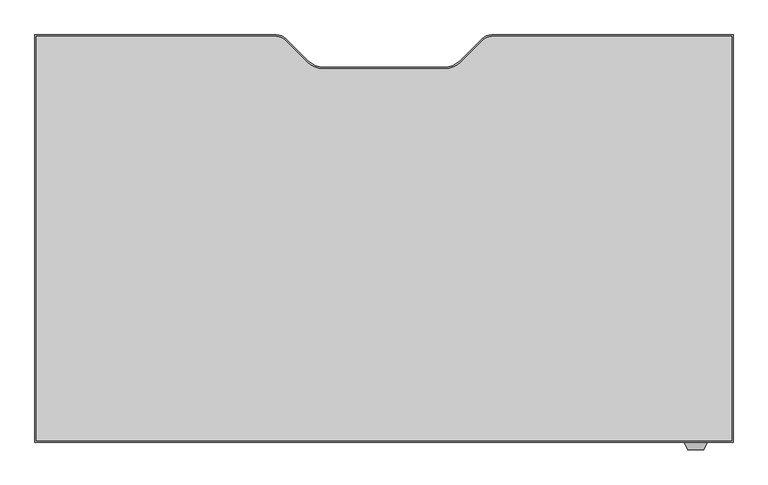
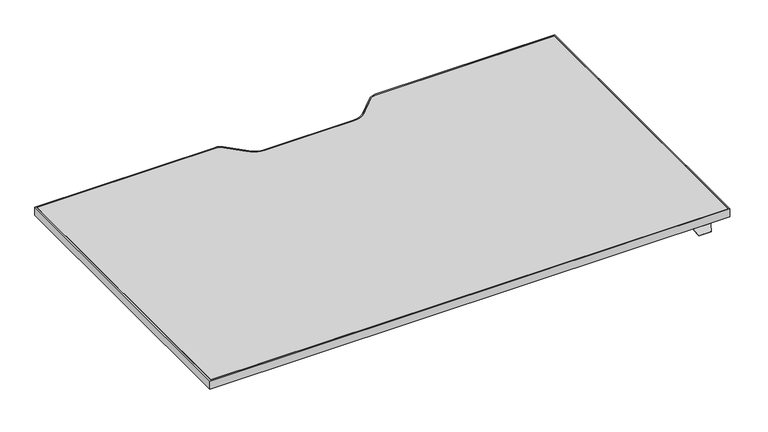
"""IFC4 building model written with IfcOpenShell, lengths in millimetres: furniture geometry, Steelcase Turnstone - Bivi - Height Adjustable Desk - T Base : 35D x 60W."""

from ifc_helpers import new_model, si_unit, point, frame, frame_2d, origin, place, context, project, spatial, polyline, circle_curve, trimmed, segment, composite_curve, outline, extrude, faceted_brep, source, transform, mapped, element, save


def furniture_2c54a8fb(model_context):
    return source(origin(), model_context, "Body", "SolidModel", [
        faceted_brep([(316.0177913, -542.0301693, 760.9984131), (316.0177913, -539.5074599, 760.9984131), (316.0177913, -539.5074599, 762.4), (316.0177913, -542.0490853, 762.4), (316.0177913, -543.3594921, 761.3004382), (316.0177913, -543.3594921, 759.8829789), (266.4448135, -542.0490853, 762.4), (266.4448135, -539.5074599, 762.4), (266.4448135, -539.5074599, 760.9984131), (266.4448135, -542.0301693, 760.9984131), (266.4448135, -543.3594921, 759.8829789), (266.4448135, -543.3594921, 761.3004382), (309.0358363, -558.3323429, 748.7367246), (273.4267685, -558.3323429, 748.7367246), (273.0673686, -557.5616074, 747.9659891), (309.3952362, -557.5616074, 747.9659891)], [[[0, 1, 2, 3, 4, 5]], [[6, 7, 8, 9, 10, 11]], [[12, 13, 14, 15]], [[9, 0, 5, 15, 14, 10]], [[1, 0, 9, 8]], [[2, 1, 8, 7]], [[3, 2, 7, 6]], [[3, 6, 11, 13, 12, 4]], [[5, 4, 12, 15]], [[11, 10, 14, 13]]]),
        extrude(outline(composite_curve([segment(polyline([(-1151.2285908, 346.9509147), (-623.9070191, 346.9509147)]), True, "CONTINUOUS"), segment(trimmed(circle_curve(frame_2d((-623.9070191, 318.2489147)), 28.702), [point((-623.9070191, 346.9509147))], [point((-603.6116402, 338.5442935))], False, "CARTESIAN"), True, "CONTINUOUS"), segment(polyline([(-603.6116402, 338.5442935), (-556.0972358, 291.0298891)]), True, "CONTINUOUS"), segment(trimmed(circle_curve(frame_2d((-520.1762113, 326.9509136)), 50.8), [point((-556.0972358, 291.0298891))], [point((-520.1762113, 276.1509136))], True, "CARTESIAN"), True, "CONTINUOUS"), segment(polyline([(-520.1762113, 276.1509136), (-258.2809703, 276.1509136)]), True, "CONTINUOUS"), segment(trimmed(circle_curve(frame_2d((-258.2809703, 326.9509136)), 50.8), [point((-258.2809703, 276.1509136))], [point((-222.3599458, 291.0298891))], True, "CARTESIAN"), True, "CONTINUOUS"), segment(polyline([(-222.3599458, 291.0298891), (-174.8455414, 338.5442935)]), True, "CONTINUOUS"), segment(trimmed(circle_curve(frame_2d((-154.5501625, 318.2489147)), 28.702), [point((-174.8455414, 338.5442935))], [point((-154.5501625, 346.9509147))], False, "CARTESIAN"), True, "CONTINUOUS"), segment(polyline([(-154.5501625, 346.9509147), (372.7714092, 346.9509147), (372.7714092, -542.0490853), (-1151.2285908, -542.0490853), (-1151.2285908, 346.9509147)]), True, "CONTINUOUS")], self_intersect=False), holes=[composite_curve([segment(polyline([(-1147.8487543, 343.6489147), (-1147.8487543, -538.7470853), (369.4694092, -538.7470853), (369.4694092, 343.6489147), (-154.5501625, 343.6489147)]), True, "CONTINUOUS"), segment(trimmed(circle_curve(frame_2d((-154.5501625, 318.2489147)), 25.4), [point((-154.5501625, 343.6489147))], [point((-172.5106748, 336.2094269))], True, "CARTESIAN"), True, "CONTINUOUS"), segment(polyline([(-172.5106748, 336.2094269), (-220.527602, 288.1924998)]), True, "CONTINUOUS"), segment(trimmed(circle_curve(frame_2d((-256.4486265, 324.1135242)), 50.8), [point((-220.527602, 288.1924998))], [point((-256.4486265, 273.3135242))], False, "CARTESIAN"), True, "CONTINUOUS"), segment(polyline([(-256.4486265, 273.3135242), (-389.2285908, 273.3135242), (-522.0085552, 273.3135242)]), True, "CONTINUOUS"), segment(trimmed(circle_curve(frame_2d((-522.0085552, 324.1135242)), 50.8), [point((-522.0085552, 273.3135242))], [point((-557.9295796, 288.1924998))], False, "CARTESIAN"), True, "CONTINUOUS"), segment(polyline([(-557.9295796, 288.1924998), (-605.9465068, 336.2094269)]), True, "CONTINUOUS"), segment(trimmed(circle_curve(frame_2d((-623.9070191, 318.2489147)), 25.4), [point((-605.9465068, 336.2094269))], [point((-623.9070191, 343.6489147))], True, "CARTESIAN"), True, "CONTINUOUS"), segment(polyline([(-623.9070191, 343.6489147), (-1147.8487543, 343.6489147)]), True, "CONTINUOUS")], self_intersect=False)]), frame((0.0, 0.0, 762.4), z_axis=(0.0, 0.0, 1.0), x_axis=(1.0, 0.0, 0.0)), (0.0, 0.0, 1.0), 25.0),
        extrude(outline(composite_curve([segment(polyline([(-1147.8487543, 343.6489147), (-623.9070191, 343.6489147)]), True, "CONTINUOUS"), segment(trimmed(circle_curve(frame_2d((-623.9070191, 318.2489147)), 25.4), [point((-623.9070191, 343.6489147))], [point((-605.9465068, 336.2094269))], False, "CARTESIAN"), True, "CONTINUOUS"), segment(polyline([(-605.9465068, 336.2094269), (-557.9295796, 288.1924998)]), True, "CONTINUOUS"), segment(trimmed(circle_curve(frame_2d((-522.0085552, 324.1135242)), 50.8), [point((-557.9295796, 288.1924998))], [point((-522.0085552, 273.3135242))], True, "CARTESIAN"), True, "CONTINUOUS"), segment(polyline([(-522.0085552, 273.3135242), (-389.2285908, 273.3135242), (-256.4486265, 273.3135242)]), True, "CONTINUOUS"), segment(trimmed(circle_curve(frame_2d((-256.4486265, 324.1135242)), 50.8), [point((-256.4486265, 273.3135242))], [point((-220.527602, 288.1924998))], True, "CARTESIAN"), True, "CONTINUOUS"), segment(polyline([(-220.527602, 288.1924998), (-172.5106748, 336.2094269)]), True, "CONTINUOUS"), segment(trimmed(circle_curve(frame_2d((-154.5501625, 318.2489147)), 25.4), [point((-172.5106748, 336.2094269))], [point((-154.5501625, 343.6489147))], False, "CARTESIAN"), True, "CONTINUOUS"), segment(polyline([(-154.5501625, 343.6489147), (369.4694092, 343.6489147), (369.4694092, -538.7470853), (-1147.8487543, -538.7470853), (-1147.8487543, 343.6489147)]), True, "CONTINUOUS")], self_intersect=False)), frame((0.0, 0.0, 762.4), z_axis=(0.0, 0.0, 1.0), x_axis=(1.0, 0.0, 0.0)), (0.0, 0.0, 1.0), 25.0),
    ])


if __name__ == "__main__":
    model = new_model("IFC4")
    model_context = context("Model", 3, world=origin())
    ifc_project = project(units=[si_unit("LENGTHUNIT", "METRE", prefix="MILLI")], contexts=[model_context])
    site = spatial("IfcSite", under=ifc_project)
    building = spatial("IfcBuilding", under=site)
    placement = place(None, origin())
    furniture_shape = furniture_2c54a8fb(model_context)
    element("IfcFurniture", 1, ObjectType="Steelcase Turnstone - Bivi - Height Adjustable Desk - T Base : 35D x 60W", at=placement, inside=building, context=model_context, shape_type="MappedRepresentation", body=[
        mapped(furniture_shape, transform((0.0, 0.0, 0.0), x_axis=(1.0, 0.0, 0.0), y_axis=(0.0, 1.0, 0.0), z_axis=(0.0, 0.0, 1.0))),
    ])
    save(model, "model.ifc")
